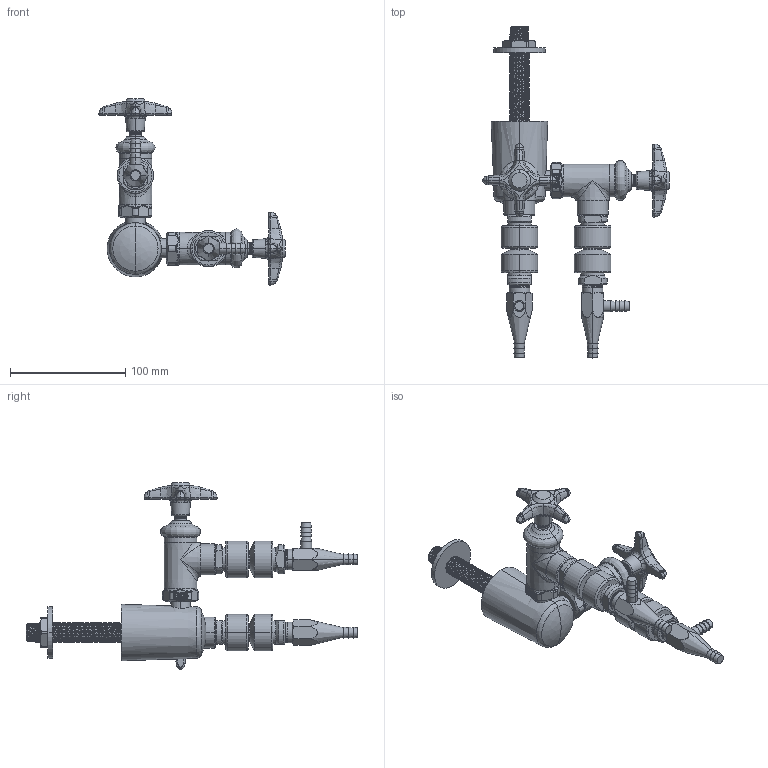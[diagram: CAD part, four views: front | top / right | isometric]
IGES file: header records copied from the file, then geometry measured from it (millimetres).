
Start section:  PTC IGES file: LWV2-C62-20.igs
Global section: file name: LWV2-C62-20.igs; native system: Creo Parametric by PTC Inc.; preprocessor: 2014500; author: usch_engrender; organization: Unknown; date: 20151113.124327; units: inch
Bounding box: 161.59 x 288.04 x 161.59 mm (x, y, z)
Volume: 391104.7 mm3; surface area: 73736.9 mm2
Topology: 1 solids, 4 shells, 1105 faces, 2614 edges, 1561 vertices
Faces by surface type: bspline 579, revolution 526
